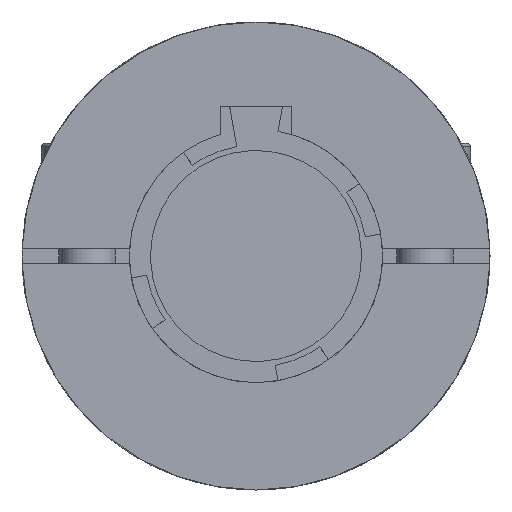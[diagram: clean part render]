
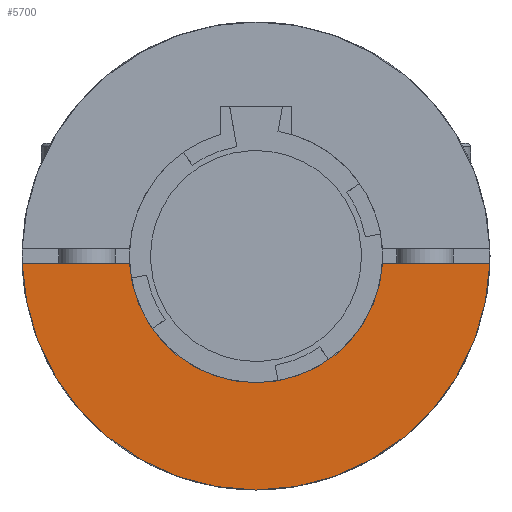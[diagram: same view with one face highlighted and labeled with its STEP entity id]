
A CAD part, left-side view. The second image highlights one B-rep face of the part: STEP entity #5700.
In plain terms, the highlighted planar face has unit normal (-1, 0, 0).
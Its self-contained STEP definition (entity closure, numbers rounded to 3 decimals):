
#266=PLANE('',#6278);
#562=FACE_OUTER_BOUND('',#891,.T.);
#891=EDGE_LOOP('',(#5276,#5277,#5278,#5279));
#1254=LINE('',#11758,#1814);
#1458=LINE('',#12299,#2018);
#1814=VECTOR('',#7396,23.788);
#2018=VECTOR('',#7934,23.788);
#2038=CIRCLE('',#5753,18.);
#2205=CIRCLE('',#6110,33.25);
#2302=VERTEX_POINT('',#8006);
#2303=VERTEX_POINT('',#8007);
#2653=VERTEX_POINT('',#11752);
#2654=VERTEX_POINT('',#11754);
#2845=EDGE_CURVE('',#2302,#2303,#2038,.T.);
#3371=EDGE_CURVE('',#2654,#2653,#2205,.T.);
#3373=EDGE_CURVE('',#2654,#2303,#1254,.T.);
#3656=EDGE_CURVE('',#2302,#2653,#1458,.T.);
#5276=ORIENTED_EDGE('',*,*,#2845,.T.);
#5277=ORIENTED_EDGE('',*,*,#3373,.F.);
#5278=ORIENTED_EDGE('',*,*,#3371,.T.);
#5279=ORIENTED_EDGE('',*,*,#3656,.F.);
#5700=ADVANCED_FACE('',(#562),#266,.F.);
#5753=AXIS2_PLACEMENT_3D('',#8008,#6334,#6335);
#6110=AXIS2_PLACEMENT_3D('',#11755,#7391,#7392);
#6278=AXIS2_PLACEMENT_3D('',#12298,#7932,#7933);
#6334=DIRECTION('center_axis',(1.,0.,0.));
#6335=DIRECTION('ref_axis',(0.,0.,1.));
#7391=DIRECTION('center_axis',(-1.,0.,0.));
#7392=DIRECTION('ref_axis',(0.,1.,-0.03));
#7396=DIRECTION('',(0.,-1.,0.));
#7932=DIRECTION('center_axis',(1.,0.,0.));
#7933=DIRECTION('ref_axis',(0.,0.,-1.));
#7934=DIRECTION('',(0.,-1.,0.));
#8006=CARTESIAN_POINT('',(0.,-17.972,-1.));
#8007=CARTESIAN_POINT('',(0.,17.972,-1.));
#8008=CARTESIAN_POINT('Origin',(0.,0.,0.));
#11752=CARTESIAN_POINT('',(0.,-33.235,-1.));
#11754=CARTESIAN_POINT('',(0.,33.235,-1.));
#11755=CARTESIAN_POINT('Origin',(0.,0.,0.));
#11758=CARTESIAN_POINT('',(0.,33.235,-1.));
#12298=CARTESIAN_POINT('Origin',(0.,0.,33.25));
#12299=CARTESIAN_POINT('',(0.,-9.447,-1.));
